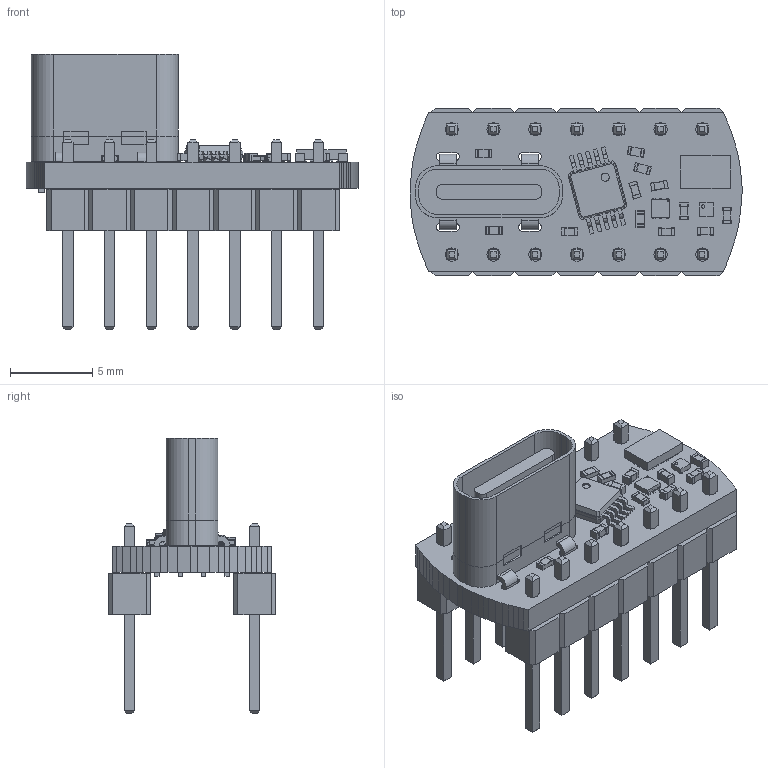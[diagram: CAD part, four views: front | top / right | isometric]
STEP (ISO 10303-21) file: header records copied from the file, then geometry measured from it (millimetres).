
FILE_DESCRIPTION(('KiCad electronic assembly'),'2;1');
FILE_NAME('Vlogi_v1.01.step','2022-03-23T09:57:19',('An Author'),( 'A Company'),'Open CASCADE STEP processor 7.5', 'KiCad to STEP converter','Unknown');
FILE_SCHEMA(('AUTOMOTIVE_DESIGN { 1 0 10303 214 1 1 1 1 }'));
Length unit declared in the file: millimetre
Products named in the file (18): Open CASCADE STEP translator 7.5 1; MSOP-10-1EP_3x3mm_P0.5mm_EP1.68x1.88mm; SOLID; SLG46826V; COMPOUND; PinHeader_1x07_P2.54mm_Vertical; C_0402_1005Metric; Korean Hroparts Elec TYPE-C-31-D-09 v1; R_0402_1005Metric; DFN-6-1EP_1.2x1.2mm_P0.4mm_EP0.3x0.94mm_PullBack; WLP-4_0.83x0.83mm_P0.4mm
Assembly tree (28 placements, depth 3):
  Open CASCADE STEP translator 7.5 1
    MSOP-10-1EP_3x3mm_P0.5mm_EP1.68x1.88mm
      SOLID
    SLG46826V
      COMPOUND
    PinHeader_1x07_P2.54mm_Vertical  x2
      SOLID
    C_0402_1005Metric  x7
      SOLID
    Korean Hroparts Elec TYPE-C-31-D-09 v1
      COMPOUND
    R_0402_1005Metric  x5
      SOLID
    DFN-6-1EP_1.2x1.2mm_P0.4mm_EP0.3x0.94mm_PullBack
      SOLID
    WLP-4_0.83x0.83mm_P0.4mm
      SOLID
    COMPOUND
Bounding box: 20.19 x 10.16 x 16.74 mm (x, y, z)
Volume: 674.6 mm3; surface area: 1905.2 mm2
Topology: 62 solids, 62 shells, 1353 faces, 3338 edges, 2160 vertices
Faces by surface type: plane 1086, cylinder 229, bspline 34, sphere 4
Full cylindrical faces by diameter (mm): 0.1 x1, 0.2 x1, 0.5 x1, 0.6 x16, 0.8 x14
Entity records: 59727 total; most frequent: CARTESIAN_POINT 10292, DIRECTION 8524, LINE 6028, VECTOR 6028, ORIENTED_EDGE 4436, PCURVE 4436, DEFINITIONAL_REPRESENTATION 4436, EDGE_CURVE 2218
